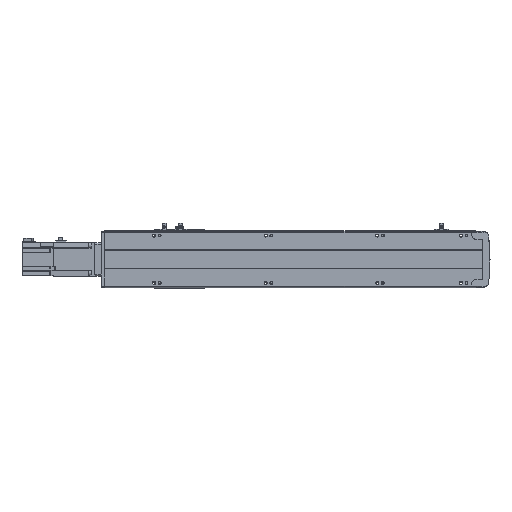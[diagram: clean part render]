
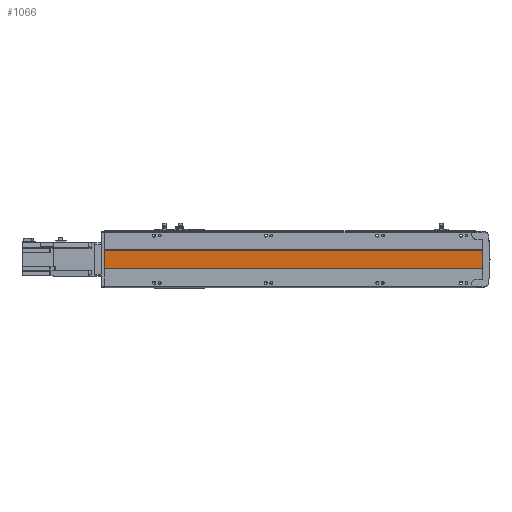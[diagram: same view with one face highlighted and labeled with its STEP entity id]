
A CAD part, front view. The second image highlights one B-rep face of the part: STEP entity #1066.
In plain terms, the highlighted planar face has unit normal (0, -1, 0).
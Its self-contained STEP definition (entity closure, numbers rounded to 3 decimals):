
#1066 = ADVANCED_FACE( '', ( #2644 ), #2645, .F. );
#2644 = FACE_OUTER_BOUND( '', #4955, .T. );
#2645 = PLANE( '', #4956 );
#4955 = EDGE_LOOP( '', ( #7785, #7786, #7787, #7788 ) );
#4956 = AXIS2_PLACEMENT_3D( '', #7789, #7790, #7791 );
#7785 = ORIENTED_EDGE( '', *, *, #13757, .F. );
#7786 = ORIENTED_EDGE( '', *, *, #13758, .T. );
#7787 = ORIENTED_EDGE( '', *, *, #13759, .T. );
#7788 = ORIENTED_EDGE( '', *, *, #13760, .F. );
#7789 = CARTESIAN_POINT( '', ( 697., 1., 16. ) );
#7790 = DIRECTION( '', ( 0., 1., 0. ) );
#7791 = DIRECTION( '', ( 0., 0., 1. ) );
#13757 = EDGE_CURVE( '', #16595, #16596, #16597, .T. );
#13758 = EDGE_CURVE( '', #16595, #16598, #16599, .T. );
#13759 = EDGE_CURVE( '', #16598, #16600, #16601, .T. );
#13760 = EDGE_CURVE( '', #16596, #16600, #16602, .T. );
#16595 = VERTEX_POINT( '', #20709 );
#16596 = VERTEX_POINT( '', #20710 );
#16597 = LINE( '', #20711, #20712 );
#16598 = VERTEX_POINT( '', #20713 );
#16599 = LINE( '', #20714, #20715 );
#16600 = VERTEX_POINT( '', #20716 );
#16601 = LINE( '', #20717, #20718 );
#16602 = LINE( '', #20719, #20720 );
#20709 = CARTESIAN_POINT( '', ( 683.5, 1., 16. ) );
#20710 = CARTESIAN_POINT( '', ( 683.5, 1., -16. ) );
#20711 = CARTESIAN_POINT( '', ( 683.5, 1., 16. ) );
#20712 = VECTOR( '', #25373, 1000. );
#20713 = CARTESIAN_POINT( '', ( 6., 1., 16. ) );
#20714 = CARTESIAN_POINT( '', ( 697., 1., 16. ) );
#20715 = VECTOR( '', #25374, 1000. );
#20716 = CARTESIAN_POINT( '', ( 6., 1., -16. ) );
#20717 = CARTESIAN_POINT( '', ( 6., 1., 16. ) );
#20718 = VECTOR( '', #25375, 1000. );
#20719 = CARTESIAN_POINT( '', ( 697., 1., -16. ) );
#20720 = VECTOR( '', #25376, 1000. );
#25373 = DIRECTION( '', ( 0., 0., -1. ) );
#25374 = DIRECTION( '', ( -1., 0., 0. ) );
#25375 = DIRECTION( '', ( 0., 0., -1. ) );
#25376 = DIRECTION( '', ( -1., 0., 0. ) );
